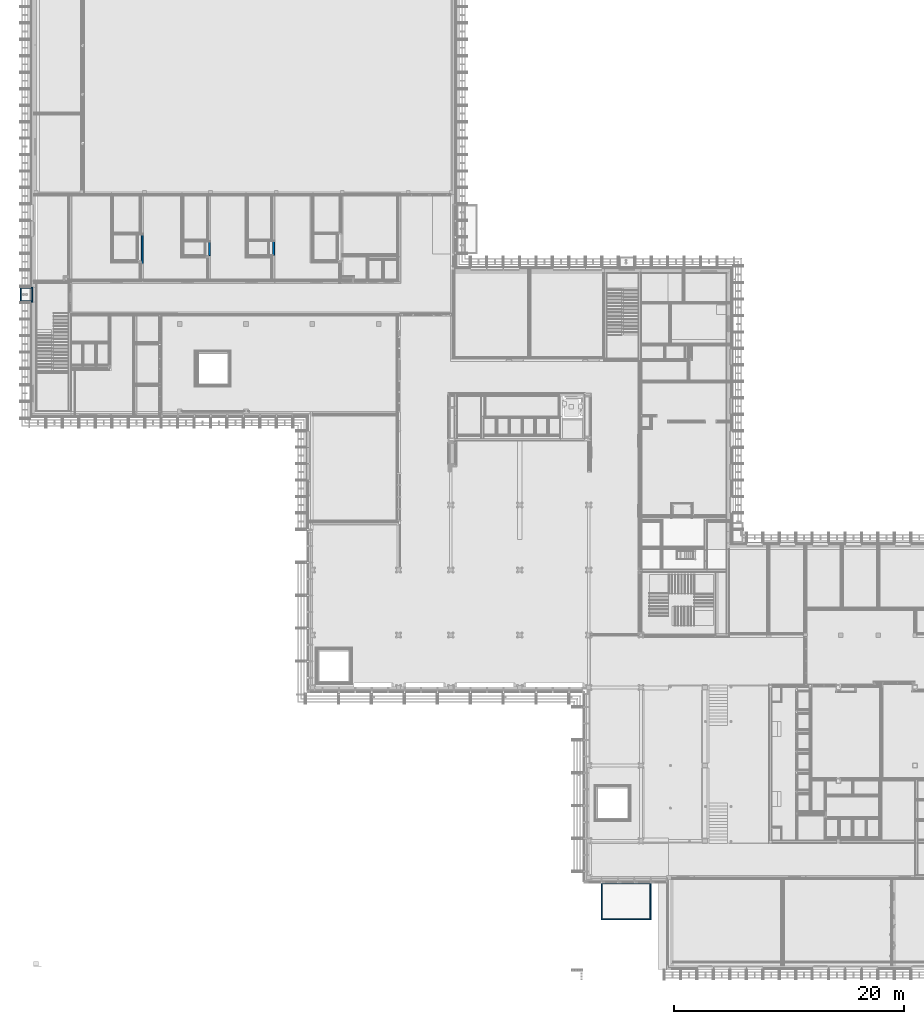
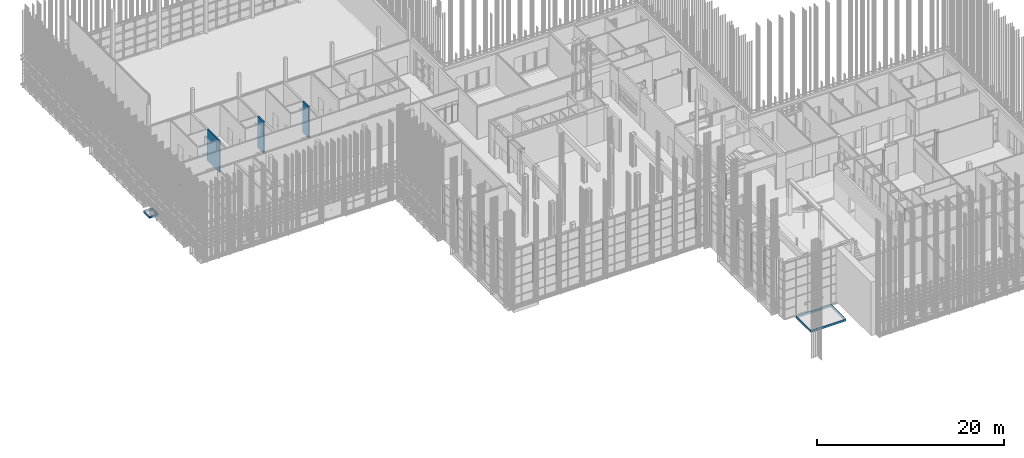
# One storey, part 109 of 260: 12 walls.
"""IFC2X3 building model written with IfcOpenShell, lengths in millimetres."""

from ifc_helpers import new_model, entity, si_unit, converted_unit, derived_unit, money_unit, direction, frame, origin_with_axes, place, context, subcontext, project, spatial, faceted_brep, material, type_object, element, save


model = new_model("IFC2X3")

# Units and contexts
model_context = context("Model", 3, precision=0.01, world=origin_with_axes(), true_north=direction((0.0, 1.0)))
body_context = subcontext(model_context, "Body", "Model", "MODEL_VIEW")
ifc_project = project(units=[si_unit("LENGTHUNIT", "METRE", prefix="MILLI"), si_unit("AREAUNIT", "SQUARE_METRE"), si_unit("VOLUMEUNIT", "CUBIC_METRE"), converted_unit("PLANEANGLEUNIT", "DEGREE", entity("IfcPlaneAngleMeasure", 0.0174532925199), si_unit("PLANEANGLEUNIT", "RADIAN"), dimensions=[0, 0, 0, 0, 0, 0, 0]), money_unit("EUR"), converted_unit("TIMEUNIT", "Year", entity("IfcTimeMeasure", 31556926.0), si_unit("TIMEUNIT", "SECOND"), dimensions=[0, 0, 1, 0, 0, 0, 0]), si_unit("MASSUNIT", "GRAM", prefix="KILO"), si_unit("THERMODYNAMICTEMPERATUREUNIT", "DEGREE_CELSIUS"), si_unit("LUMINOUSINTENSITYUNIT", "LUMEN"), si_unit("ENERGYUNIT", "JOULE", prefix="MEGA"), derived_unit("THERMALCONDUCTANCEUNIT", [(si_unit("POWERUNIT", "WATT"), 1), (si_unit("LENGTHUNIT", "METRE"), -1), (si_unit("THERMODYNAMICTEMPERATUREUNIT", "KELVIN"), -1)]), derived_unit("SPECIFICHEATCAPACITYUNIT", [(si_unit("ENERGYUNIT", "JOULE"), 1), (si_unit("MASSUNIT", "GRAM", prefix="KILO"), -1), (si_unit("THERMODYNAMICTEMPERATUREUNIT", "KELVIN"), -1)]), derived_unit("MASSDENSITYUNIT", [(si_unit("MASSUNIT", "GRAM", prefix="KILO"), 1), (si_unit("VOLUMEUNIT", "CUBIC_METRE"), -1)])], contexts=[model_context])

# Site, building, storey
site_placement = place(None, origin_with_axes())
site = spatial("IfcSite", under=ifc_project, at=site_placement, Name="Kolde pst 67a", CompositionType="ELEMENT")
building_placement = place(site_placement, origin_with_axes())
building = spatial("IfcBuilding", under=site, at=building_placement, Name="Riigigümnaasium", CompositionType="ELEMENT")
storey_placement = place(building_placement, origin_with_axes())
storey = spatial("IfcBuildingStorey", under=building, at=storey_placement, Name="1. korrus", CompositionType="ELEMENT", Elevation=0.0)

# Walls
ifc_material_1 = material(Name="_KANDETARIND - CLT ristkihtliimpuit vastavalt EK osale, CLT paigaldusvuugid teibitakse ROTHOBLAAS teibiga")
wall_type_1 = type_object("IfcWallType", Name="SS-CLT-16/7_viimistluseta 160", PredefinedType="NOTDEFINED")
wall_1_placement = place(storey_placement, frame((9506.48821835, 63647.5141369, 0.0), z_axis=(0.0, 0.0, 1.0), x_axis=(0.0, -1.0, 0.0)))
element("IfcWall", 1, at=wall_1_placement, inside=storey, type_object=wall_type_1, material=ifc_material_1, Name="Sisesein", context=body_context, shape_type="Brep", body=[
    faceted_brep([(0.0, -160.0, 0.0), (0.0, -160.0, 4080.0), (0.0, 0.0, 4080.0), (0.0, 0.0, 0.0), (2591.97377631, -160.0, 0.0), (2591.97377631, -160.0, 4080.0), (2591.97377631, 0.0, 4080.0), (2591.97377631, 0.0, 0.0)], [[[0, 1, 2, 3]], [[4, 5, 1, 0]], [[5, 6, 2, 1]], [[3, 2, 6, 7]], [[4, 0, 3, 7]], [[7, 6, 5, 4]]]),
])
wall_2_placement = place(storey_placement, frame((20928.4872525, 63039.0579697, 0.0), z_axis=(0.0, 0.0, 1.0), x_axis=(0.0, -1.0, 0.0)))
element("IfcWall", 2, at=wall_2_placement, inside=storey, type_object=wall_type_1, material=ifc_material_1, Name="Sisesein", context=body_context, shape_type="Brep", body=[
    faceted_brep([(0.0, -160.0, 0.0), (0.0, -160.0, 4080.0), (0.0, 0.0, 4080.0), (0.0, 0.0, 0.0), (1256.0536395, -160.0, 0.0), (1256.0536395, -160.0, 4080.0), (1256.0536395, 0.0, 4080.0), (1256.0536395, 0.0, 0.0)], [[[0, 1, 2, 3]], [[4, 5, 1, 0]], [[5, 6, 2, 1]], [[3, 2, 6, 7]], [[0, 3, 7, 4]], [[7, 6, 5, 4]]]),
])
wall_3_placement = place(storey_placement, frame((15360.0, 63024.5592997, 0.0), z_axis=(0.0, 0.0, 1.0), x_axis=(0.0, -1.0, 0.0)))
element("IfcWall", 3, at=wall_3_placement, inside=storey, type_object=wall_type_1, material=ifc_material_1, Name="Sisesein", context=body_context, shape_type="Brep", body=[
    faceted_brep([(0.0, -160.0, 0.0), (0.0, -160.0, 4080.0), (0.0, 0.0, 4080.0), (0.0, 0.0, 0.0), (1266.5536395, -160.0, 0.0), (1266.5536395, -160.0, 4080.0), (1266.5536395, 0.0, 4080.0), (1266.5536395, 0.0, 0.0)], [[[0, 1, 2, 3]], [[4, 5, 1, 0]], [[6, 2, 1, 5]], [[3, 2, 6, 7]], [[0, 3, 7, 4]], [[6, 5, 4, 7]]]),
])
ifc_material_2 = material(Name="_KANDETARIND - monoliitne raudbetoon vastavalt EK osale")
wall_type_2 = type_object("IfcWallType", Name="_KANDETARIND - monoliitne raudbetoon vastavalt EK osale 100", PredefinedType="NOTDEFINED")
wall_4_placement = place(storey_placement, frame((-71.3404136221, 59029.7799495, -302.0), z_axis=(0.0, 0.0, 1.0), x_axis=(-0.999999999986, -5.37580937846e-06, 0.0)))
element("IfcWall", 4, at=wall_4_placement, inside=storey, type_object=wall_type_2, material=ifc_material_2, Name="Porivann, monoliitne raudbetoon vastavalt EK osale", context=body_context, shape_type="Brep", body=[
    faceted_brep([(1119.96689306, 100.0, 0.0), (1119.96689306, 0.0, 0.0), (0.0, 0.0, 0.0), (0.0, 100.0, 0.0), (1119.96689306, 100.0, 280.0), (1119.96689306, 0.0, 280.0), (0.0, 0.0, 280.0), (0.0, 100.0, 280.0)], [[[0, 1, 2, 3]], [[1, 0, 4, 5]], [[1, 5, 6, 2]], [[7, 3, 2, 6]], [[4, 0, 3, 7]], [[5, 4, 7, 6]]]),
])
wall_5_placement = place(storey_placement, frame((-1191.30730667, 59029.7739288, -302.0), z_axis=(0.0, 0.0, 1.0), x_axis=(5.37580938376e-06, -0.999999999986, 0.0)))
element("IfcWall", 5, at=wall_5_placement, inside=storey, type_object=wall_type_2, material=ifc_material_2, Name="Porivann, monoliitne raudbetoon vastavalt EK osale", context=body_context, shape_type="Brep", body=[
    faceted_brep([(1310.0000002, 100.0, 0.0), (1310.0000002, 0.0, 0.0), (100.0, 0.0, 0.0), (100.0, 100.0, 0.0), (1310.0000002, 100.0, 280.0), (1310.0000002, 0.0, 280.0), (100.0, 0.0, 280.0), (100.0, 100.0, 280.0)], [[[0, 1, 2, 3]], [[1, 0, 4, 5]], [[1, 5, 6, 2]], [[7, 3, 2, 6]], [[4, 0, 3, 7]], [[5, 4, 7, 6]]]),
])
wall_6_placement = place(storey_placement, frame((-1191.30026436, 57719.7739286, -302.0), z_axis=(0.0, 0.0, 1.0), x_axis=(0.999999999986, 5.37580939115e-06, 0.0)))
element("IfcWall", 6, at=wall_6_placement, inside=storey, type_object=wall_type_2, material=ifc_material_2, Name="Porivann, monoliitne raudbetoon vastavalt EK osale", context=body_context, shape_type="Brep", body=[
    faceted_brep([(1119.96689306, 99.9939792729, 0.0), (1119.96689306, -0.0060207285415, 0.0), (100.0, -0.000537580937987, 0.0), (100.0, 99.9994624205, 0.0), (1119.96689306, 99.9939792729, 280.0), (1119.96689306, -0.0060207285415, 280.0), (100.0, -0.000537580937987, 280.0), (100.0, 99.9994624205, 280.0)], [[[0, 1, 2, 3]], [[1, 0, 4, 5]], [[1, 5, 6, 2]], [[7, 3, 2, 6]], [[4, 0, 3, 7]], [[5, 4, 7, 6]]]),
])
wall_7_placement = place(storey_placement, frame((-71.3333713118, 57719.7799493, -302.0), z_axis=(0.0, 0.0, 1.0), x_axis=(-5.37580938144e-06, 0.999999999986, 0.0)))
element("IfcWall", 7, at=wall_7_placement, inside=storey, type_object=wall_type_2, material=ifc_material_2, Name="Porivann, monoliitne raudbetoon vastavalt EK osale", context=body_context, shape_type="Brep", body=[
    faceted_brep([(1210.0000002, 100.0, 0.0), (1210.0000002, 0.0, 0.0), (100.0, 0.0, 0.0), (100.0, 100.0, 0.0), (1210.0000002, 100.0, 280.0), (1210.0000002, 0.0, 280.0), (100.0, 0.0, 280.0), (100.0, 100.0, 280.0)], [[[0, 1, 2, 3]], [[1, 0, 4, 5]], [[1, 5, 6, 2]], [[7, 3, 2, 6]], [[4, 0, 3, 7]], [[5, 4, 7, 6]]]),
])
wall_8_placement = place(storey_placement, frame((53661.5511847, 7250.02785511, -302.0), z_axis=(0.0, 0.0, 1.0), x_axis=(-0.999999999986, -5.37580938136e-06, 0.0)))
element("IfcWall", 8, at=wall_8_placement, inside=storey, type_object=wall_type_2, material=ifc_material_2, Name="Porivann, monoliitne raudbetoon vastavalt EK osale", context=body_context, shape_type="Brep", body=[
    faceted_brep([(0.0, 100.0, 0.0), (1382.97472459, 100.0, 0.0), (1382.97472459, 0.0, 0.0), (0.0, 0.0, 0.0), (0.0, 100.0, 280.0), (1382.97472459, 100.0, 280.0), (1382.97472459, 0.0, 280.0), (0.0, 0.0, 280.0)], [[[0, 1, 2, 3]], [[4, 5, 1, 0]], [[2, 1, 5, 6]], [[3, 2, 6, 7]], [[4, 0, 3, 7]], [[7, 6, 5, 4]]]),
])
wall_9_placement = place(storey_placement, frame((49311.5535392, 7250.00447035, -302.0), z_axis=(0.0, 0.0, 1.0), x_axis=(5.37580938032e-06, -0.999999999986, 0.0)))
element("IfcWall", 9, at=wall_9_placement, inside=storey, type_object=wall_type_2, material=ifc_material_2, Name="Porivann, monoliitne raudbetoon vastavalt EK osale", context=body_context, shape_type="Brep", body=[
    faceted_brep([(3199.96197457, 100.0, 0.0), (3199.96197457, 0.0, 0.0), (0.0, 0.0, 0.0), (0.0, 100.0, 0.0), (3199.96197457, 100.0, 280.0), (3199.96197457, 0.0, 280.0), (0.0, 0.0, 280.0), (0.0, 100.0, 280.0)], [[[0, 1, 2, 3]], [[1, 0, 4, 5]], [[1, 5, 6, 2]], [[7, 3, 2, 6]], [[4, 0, 3, 7]], [[5, 4, 7, 6]]]),
])
wall_10_placement = place(storey_placement, frame((49311.5707416, 4050.04249583, -302.0), z_axis=(0.0, 0.0, 1.0), x_axis=(0.999999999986, 5.37580939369e-06, 0.0)))
element("IfcWall", 10, at=wall_10_placement, inside=storey, type_object=wall_type_2, material=ifc_material_2, Name="Porivann, monoliitne raudbetoon vastavalt EK osale", context=body_context, shape_type="Brep", body=[
    faceted_brep([(4349.99764554, 99.9766152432, 0.0), (4349.99764554, -0.0233847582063, 0.0), (100.0, -0.000537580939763, 0.0), (100.0, 99.9994624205, 0.0), (4349.99764554, 99.9766152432, 280.0), (4349.99764554, -0.0233847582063, 280.0), (100.0, -0.000537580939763, 280.0), (100.0, 99.9994624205, 280.0)], [[[0, 1, 2, 3]], [[1, 0, 4, 5]], [[1, 5, 6, 2]], [[7, 3, 2, 6]], [[4, 0, 3, 7]], [[5, 4, 7, 6]]]),
])
wall_11_placement = place(storey_placement, frame((53661.5683871, 4050.06588059, -302.0), z_axis=(0.0, 0.0, 1.0), x_axis=(-5.37580937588e-06, 0.999999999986, 0.0)))
element("IfcWall", 11, at=wall_11_placement, inside=storey, type_object=wall_type_2, material=ifc_material_2, Name="Porivann, monoliitne raudbetoon vastavalt EK osale", context=body_context, shape_type="Brep", body=[
    faceted_brep([(3099.96197457, 100.0, 0.0), (3099.96197457, 0.0, 0.0), (100.0, 0.0, 0.0), (100.0, 100.0, 0.0), (3099.96197457, 100.0, 280.0), (3099.96197457, 0.0, 280.0), (100.0, 0.0, 280.0), (100.0, 100.0, 280.0)], [[[0, 1, 2, 3]], [[1, 0, 4, 5]], [[1, 5, 6, 2]], [[7, 3, 2, 6]], [[4, 0, 3, 7]], [[5, 4, 7, 6]]]),
])
wall_12_placement = place(storey_placement, frame((52278.5764601, 7250.0204205, -302.0), z_axis=(0.0, 0.0, 1.0), x_axis=(-0.999999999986, -5.37580938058e-06, 0.0)))
element("IfcWall", 12, at=wall_12_placement, inside=storey, type_object=wall_type_2, material=ifc_material_2, Name="Porivann, monoliitne raudbetoon vastavalt EK osale", context=body_context, shape_type="Brep", body=[
    faceted_brep([(2867.02292095, 100.0, 0.0), (2867.02292095, 0.0, 0.0), (0.0, 0.0, 0.0), (0.0, 100.0, 0.0), (2867.02292095, 100.0, 280.0), (2867.02292095, 0.0, 280.0), (0.0, 0.0, 280.0), (0.0, 100.0, 280.0)], [[[0, 1, 2, 3]], [[1, 0, 4, 5]], [[1, 5, 6, 2]], [[7, 3, 2, 6]], [[4, 0, 3, 7]], [[5, 4, 7, 6]]]),
])

save(model, "model.ifc")
